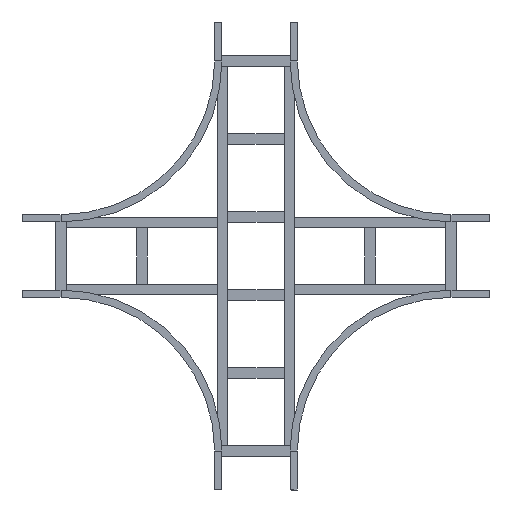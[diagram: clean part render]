
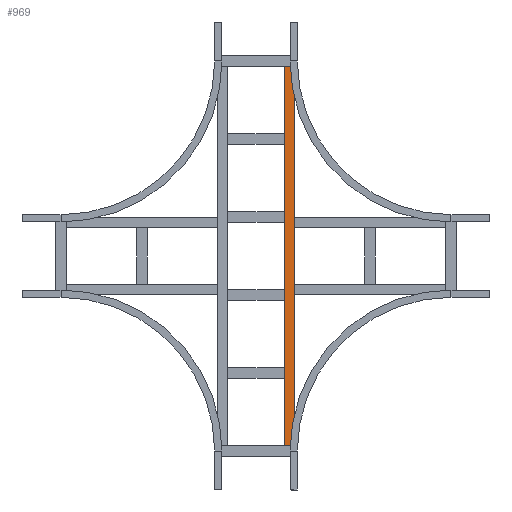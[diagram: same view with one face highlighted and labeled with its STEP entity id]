
A CAD part, front view. The second image highlights one B-rep face of the part: STEP entity #969.
In plain terms, the highlighted planar face has unit normal (0, -1, 0).
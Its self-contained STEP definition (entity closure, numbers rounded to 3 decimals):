
#59 = CARTESIAN_POINT ( 'NONE',  ( 729.75, 0., 20.25 ) ) ;
#75 = DIRECTION ( 'NONE',  ( 0., 0., 1. ) ) ;
#251 = EDGE_CURVE ( 'NONE', #796, #2555, #681, .T. ) ;
#303 = FACE_OUTER_BOUND ( 'NONE', #2441, .T. ) ;
#343 = DIRECTION ( 'NONE',  ( 0., 0., -1. ) ) ;
#380 = CARTESIAN_POINT ( 'NONE',  ( -729.75, 0., 20.25 ) ) ;
#606 = ORIENTED_EDGE ( 'NONE', *, *, #1875, .F. ) ;
#620 = AXIS2_PLACEMENT_3D ( 'NONE', #942, #1949, #75 ) ;
#681 = LINE ( 'NONE', #2102, #1823 ) ;
#771 = LINE ( 'NONE', #1016, #906 ) ;
#796 = VERTEX_POINT ( 'NONE', #2125 ) ;
#902 = CARTESIAN_POINT ( 'NONE',  ( 729.75, 0., 20.25 ) ) ;
#906 = VECTOR ( 'NONE', #2434, 1000. ) ;
#942 = CARTESIAN_POINT ( 'NONE',  ( 729.75, 0., 20.25 ) ) ;
#969 = ADVANCED_FACE ( 'NONE', ( #303 ), #1967, .F. ) ;
#1016 = CARTESIAN_POINT ( 'NONE',  ( 729.75, 0., 20.25 ) ) ;
#1292 = ORIENTED_EDGE ( 'NONE', *, *, #251, .F. ) ;
#1614 = LINE ( 'NONE', #380, #2090 ) ;
#1644 = VERTEX_POINT ( 'NONE', #902 ) ;
#1684 = DIRECTION ( 'NONE',  ( -1., 0., 0. ) ) ;
#1823 = VECTOR ( 'NONE', #1684, 1000. ) ;
#1875 = EDGE_CURVE ( 'NONE', #1644, #796, #771, .T. ) ;
#1884 = CARTESIAN_POINT ( 'NONE',  ( -729.75, 0., 20.25 ) ) ;
#1937 = LINE ( 'NONE', #59, #2399 ) ;
#1949 = DIRECTION ( 'NONE',  ( 0., 1., 0. ) ) ;
#1967 = PLANE ( 'NONE',  #620 ) ;
#2066 = ORIENTED_EDGE ( 'NONE', *, *, #2187, .T. ) ;
#2090 = VECTOR ( 'NONE', #343, 1000. ) ;
#2102 = CARTESIAN_POINT ( 'NONE',  ( 729.75, 0., -20.25 ) ) ;
#2125 = CARTESIAN_POINT ( 'NONE',  ( 729.75, 0., -20.25 ) ) ;
#2187 = EDGE_CURVE ( 'NONE', #2315, #2555, #1614, .T. ) ;
#2315 = VERTEX_POINT ( 'NONE', #1884 ) ;
#2399 = VECTOR ( 'NONE', #2559, 1000. ) ;
#2434 = DIRECTION ( 'NONE',  ( 0., 0., -1. ) ) ;
#2441 = EDGE_LOOP ( 'NONE', ( #2066, #1292, #606, #2686 ) ) ;
#2529 = EDGE_CURVE ( 'NONE', #1644, #2315, #1937, .T. ) ;
#2555 = VERTEX_POINT ( 'NONE', #2577 ) ;
#2559 = DIRECTION ( 'NONE',  ( -1., 0., 0. ) ) ;
#2577 = CARTESIAN_POINT ( 'NONE',  ( -729.75, 0., -20.25 ) ) ;
#2686 = ORIENTED_EDGE ( 'NONE', *, *, #2529, .T. ) ;
